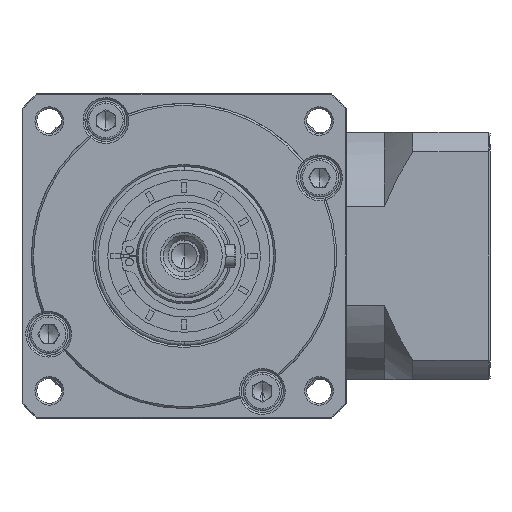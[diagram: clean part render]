
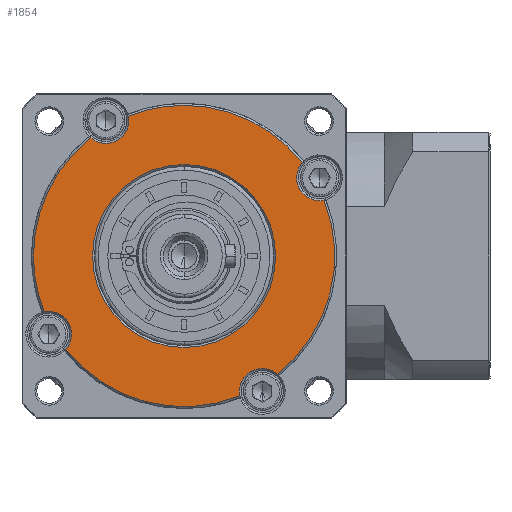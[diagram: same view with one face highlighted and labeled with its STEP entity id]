
A CAD part, left-side view. The second image highlights one B-rep face of the part: STEP entity #1854.
In plain terms, the highlighted planar face has unit normal (-1, 0, 0).
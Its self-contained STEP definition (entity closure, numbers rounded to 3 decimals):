
#27 = CARTESIAN_POINT ( 'NONE',  ( -100.828, -6.446, -125.264 ) ) ;
#1239 = DIRECTION ( 'NONE',  ( 1., 0., 0. ) ) ;
#1410 = EDGE_LOOP ( 'NONE', ( #54417, #53646 ) ) ;
#1830 = CARTESIAN_POINT ( 'NONE',  ( -100.828, 14.054, -89.757 ) ) ;
#1854 = ADVANCED_FACE ( 'NONE', ( #48993, #53265 ), #169832, .T. ) ;
#2634 = EDGE_CURVE ( 'NONE', #25477, #93316, #176120, .T. ) ;
#4752 = DIRECTION ( 'NONE',  ( 0., 0., -1. ) ) ;
#5153 = DIRECTION ( 'NONE',  ( 0., 0., 1. ) ) ;
#7692 = CIRCLE ( 'NONE', #137517, 39.5 ) ;
#10371 = EDGE_LOOP ( 'NONE', ( #87818, #83642, #101927, #33975, #71988, #87057, #58015, #130200, #89342, #99019, #45957, #114866 ) ) ;
#11102 = AXIS2_PLACEMENT_3D ( 'NONE', #82558, #1239, #96177 ) ;
#11341 = CARTESIAN_POINT ( 'NONE',  ( -100.828, -43.141, -110.645 ) ) ;
#13335 = DIRECTION ( 'NONE',  ( 0., 0., -1. ) ) ;
#13628 = DIRECTION ( 'NONE',  ( 0., -1., 0. ) ) ;
#13887 = VERTEX_POINT ( 'NONE', #122277 ) ;
#15423 = DIRECTION ( 'NONE',  ( 0., 0., -1. ) ) ;
#17934 = AXIS2_PLACEMENT_3D ( 'NONE', #175943, #94714, #13335 ) ;
#18430 = CARTESIAN_POINT ( 'NONE',  ( -100.828, 18.024, -94.256 ) ) ;
#22256 = AXIS2_PLACEMENT_3D ( 'NONE', #61906, #156864, #75555 ) ;
#25327 = CARTESIAN_POINT ( 'NONE',  ( -100.828, -41.953, -110.764 ) ) ;
#25477 = VERTEX_POINT ( 'NONE', #25327 ) ;
#27035 = CARTESIAN_POINT ( 'NONE',  ( -100.828, -26.946, -160.771 ) ) ;
#29432 = DIRECTION ( 'NONE',  ( 1., 0., 0. ) ) ;
#30093 = CARTESIAN_POINT ( 'NONE',  ( -100.828, 14.054, -95.757 ) ) ;
#30162 = EDGE_CURVE ( 'NONE', #128869, #41465, #127472, .T. ) ;
#30511 = EDGE_CURVE ( 'NONE', #93685, #25477, #78363, .T. ) ;
#31683 = EDGE_CURVE ( 'NONE', #93685, #89970, #7692, .T. ) ;
#32582 = VERTEX_POINT ( 'NONE', #43719 ) ;
#33975 = ORIENTED_EDGE ( 'NONE', *, *, #30162, .F. ) ;
#34473 = CARTESIAN_POINT ( 'NONE',  ( -100.828, -21.065, -161.96 ) ) ;
#35426 = EDGE_CURVE ( 'NONE', #166042, #13887, #158759, .T. ) ;
#35773 = DIRECTION ( 'NONE',  ( 1., 0., 0. ) ) ;
#40768 = DIRECTION ( 'NONE',  ( 0., 0., -1. ) ) ;
#41465 = VERTEX_POINT ( 'NONE', #18430 ) ;
#42227 = EDGE_CURVE ( 'NONE', #86652, #128504, #60302, .T. ) ;
#43719 = CARTESIAN_POINT ( 'NONE',  ( -100.828, 17.554, -125.264 ) ) ;
#45957 = ORIENTED_EDGE ( 'NONE', *, *, #2634, .T. ) ;
#46766 = DIRECTION ( 'NONE',  ( 1., 0., 0. ) ) ;
#48993 = FACE_OUTER_BOUND ( 'NONE', #10371, .T. ) ;
#50568 = DIRECTION ( 'NONE',  ( 1., 0., 0. ) ) ;
#53265 = FACE_BOUND ( 'NONE', #1410, .T. ) ;
#53646 = ORIENTED_EDGE ( 'NONE', *, *, #136244, .T. ) ;
#54417 = ORIENTED_EDGE ( 'NONE', *, *, #145152, .T. ) ;
#56078 = DIRECTION ( 'NONE',  ( 1., 0., 0. ) ) ;
#56889 = CARTESIAN_POINT ( 'NONE',  ( -100.828, -30.446, -125.264 ) ) ;
#58015 = ORIENTED_EDGE ( 'NONE', *, *, #107213, .F. ) ;
#60302 = CIRCLE ( 'NONE', #113755, 6. ) ;
#61164 = AXIS2_PLACEMENT_3D ( 'NONE', #167364, #86097, #4752 ) ;
#61210 = AXIS2_PLACEMENT_3D ( 'NONE', #161505, #80177, #175044 ) ;
#61906 = CARTESIAN_POINT ( 'NONE',  ( -100.828, -6.446, -125.264 ) ) ;
#68804 = CARTESIAN_POINT ( 'NONE',  ( -100.828, -41.953, -104.764 ) ) ;
#71805 = CIRCLE ( 'NONE', #93619, 39.5 ) ;
#71988 = ORIENTED_EDGE ( 'NONE', *, *, #136278, .F. ) ;
#75555 = DIRECTION ( 'NONE',  ( 0., 0., -1. ) ) ;
#77902 = CIRCLE ( 'NONE', #94671, 6. ) ;
#78363 = CIRCLE ( 'NONE', #61164, 6. ) ;
#80177 = DIRECTION ( 'NONE',  ( 1., 0., 0. ) ) ;
#82392 = DIRECTION ( 'NONE',  ( 0., 0., -1. ) ) ;
#82558 = CARTESIAN_POINT ( 'NONE',  ( -100.828, -6.446, -125.264 ) ) ;
#83642 = ORIENTED_EDGE ( 'NONE', *, *, #42227, .T. ) ;
#85454 = CARTESIAN_POINT ( 'NONE',  ( -100.828, -37.454, -100.795 ) ) ;
#85676 = EDGE_CURVE ( 'NONE', #86652, #156049, #117138, .T. ) ;
#86097 = DIRECTION ( 'NONE',  ( 1., 0., 0. ) ) ;
#86509 = DIRECTION ( 'NONE',  ( 1., 0., 0. ) ) ;
#86652 = VERTEX_POINT ( 'NONE', #117269 ) ;
#87057 = ORIENTED_EDGE ( 'NONE', *, *, #35426, .T. ) ;
#87818 = ORIENTED_EDGE ( 'NONE', *, *, #85676, .F. ) ;
#89342 = ORIENTED_EDGE ( 'NONE', *, *, #31683, .F. ) ;
#89970 = VERTEX_POINT ( 'NONE', #94104 ) ;
#93316 = VERTEX_POINT ( 'NONE', #85454 ) ;
#93619 = AXIS2_PLACEMENT_3D ( 'NONE', #167793, #86509, #5153 ) ;
#93685 = VERTEX_POINT ( 'NONE', #11341 ) ;
#94104 = CARTESIAN_POINT ( 'NONE',  ( -100.828, -30.915, -156.272 ) ) ;
#94671 = AXIS2_PLACEMENT_3D ( 'NONE', #27035, #122134, #40768 ) ;
#94714 = DIRECTION ( 'NONE',  ( 1., 0., 0. ) ) ;
#95020 = DIRECTION ( 'NONE',  ( 1., 0., 0. ) ) ;
#96177 = DIRECTION ( 'NONE',  ( 0., 1., 0. ) ) ;
#96806 = DIRECTION ( 'NONE',  ( 1., 0., 0. ) ) ;
#99019 = ORIENTED_EDGE ( 'NONE', *, *, #30511, .T. ) ;
#99715 = CARTESIAN_POINT ( 'NONE',  ( -100.828, -6.446, -85.764 ) ) ;
#101927 = ORIENTED_EDGE ( 'NONE', *, *, #107617, .T. ) ;
#106579 = CARTESIAN_POINT ( 'NONE',  ( -100.828, 33.054, -125.264 ) ) ;
#107213 = EDGE_CURVE ( 'NONE', #129700, #13887, #114142, .T. ) ;
#107617 = EDGE_CURVE ( 'NONE', #128504, #41465, #164871, .T. ) ;
#109991 = CARTESIAN_POINT ( 'NONE',  ( -100.828, 30.249, -139.883 ) ) ;
#110818 = CARTESIAN_POINT ( 'NONE',  ( -100.828, 14.054, -89.757 ) ) ;
#111754 = AXIS2_PLACEMENT_3D ( 'NONE', #1830, #96806, #15423 ) ;
#113755 = AXIS2_PLACEMENT_3D ( 'NONE', #110818, #29432, #124514 ) ;
#114142 = CIRCLE ( 'NONE', #136690, 39.5 ) ;
#114866 = ORIENTED_EDGE ( 'NONE', *, *, #145126, .F. ) ;
#117115 = CARTESIAN_POINT ( 'NONE',  ( -100.828, -6.446, -125.264 ) ) ;
#117138 = CIRCLE ( 'NONE', #61210, 39.5 ) ;
#117269 = CARTESIAN_POINT ( 'NONE',  ( -100.828, 8.173, -88.569 ) ) ;
#122134 = DIRECTION ( 'NONE',  ( 1., 0., 0. ) ) ;
#122277 = CARTESIAN_POINT ( 'NONE',  ( -100.828, 24.562, -149.734 ) ) ;
#123866 = AXIS2_PLACEMENT_3D ( 'NONE', #27, #95020, #13628 ) ;
#124514 = DIRECTION ( 'NONE',  ( 0., 0., -1. ) ) ;
#127472 = CIRCLE ( 'NONE', #131539, 39.5 ) ;
#128084 = CARTESIAN_POINT ( 'NONE',  ( -100.828, -6.446, -125.264 ) ) ;
#128504 = VERTEX_POINT ( 'NONE', #30093 ) ;
#128869 = VERTEX_POINT ( 'NONE', #106579 ) ;
#129700 = VERTEX_POINT ( 'NONE', #34473 ) ;
#130200 = ORIENTED_EDGE ( 'NONE', *, *, #153337, .T. ) ;
#130513 = AXIS2_PLACEMENT_3D ( 'NONE', #68804, #163676, #82392 ) ;
#130736 = DIRECTION ( 'NONE',  ( 0., 0., 1. ) ) ;
#131539 = AXIS2_PLACEMENT_3D ( 'NONE', #137297, #56078, #150970 ) ;
#131804 = CARTESIAN_POINT ( 'NONE',  ( -100.828, -6.446, -125.264 ) ) ;
#136244 = EDGE_CURVE ( 'NONE', #32582, #169225, #152001, .T. ) ;
#136278 = EDGE_CURVE ( 'NONE', #166042, #128869, #170975, .T. ) ;
#136690 = AXIS2_PLACEMENT_3D ( 'NONE', #117115, #35773, #130736 ) ;
#137297 = CARTESIAN_POINT ( 'NONE',  ( -100.828, -6.446, -125.264 ) ) ;
#137517 = AXIS2_PLACEMENT_3D ( 'NONE', #131804, #50568, #145473 ) ;
#141680 = DIRECTION ( 'NONE',  ( 0., -1., 0. ) ) ;
#145126 = EDGE_CURVE ( 'NONE', #156049, #93316, #71805, .T. ) ;
#145152 = EDGE_CURVE ( 'NONE', #169225, #32582, #158800, .T. ) ;
#145473 = DIRECTION ( 'NONE',  ( 0., 0., 1. ) ) ;
#150970 = DIRECTION ( 'NONE',  ( 0., 1., 0. ) ) ;
#152001 = CIRCLE ( 'NONE', #123866, 24. ) ;
#153337 = EDGE_CURVE ( 'NONE', #129700, #89970, #77902, .T. ) ;
#156049 = VERTEX_POINT ( 'NONE', #99715 ) ;
#156864 = DIRECTION ( 'NONE',  ( -1., 0., 0. ) ) ;
#157356 = AXIS2_PLACEMENT_3D ( 'NONE', #128084, #46766, #141680 ) ;
#158759 = CIRCLE ( 'NONE', #17934, 6. ) ;
#158800 = CIRCLE ( 'NONE', #157356, 24. ) ;
#161505 = CARTESIAN_POINT ( 'NONE',  ( -100.828, -6.446, -125.264 ) ) ;
#163676 = DIRECTION ( 'NONE',  ( 1., 0., 0. ) ) ;
#164871 = CIRCLE ( 'NONE', #111754, 6. ) ;
#166042 = VERTEX_POINT ( 'NONE', #109991 ) ;
#167364 = CARTESIAN_POINT ( 'NONE',  ( -100.828, -41.953, -104.764 ) ) ;
#167793 = CARTESIAN_POINT ( 'NONE',  ( -100.828, -6.446, -125.264 ) ) ;
#169225 = VERTEX_POINT ( 'NONE', #56889 ) ;
#169832 = PLANE ( 'NONE',  #22256 ) ;
#170975 = CIRCLE ( 'NONE', #11102, 39.5 ) ;
#175044 = DIRECTION ( 'NONE',  ( 0., 0., 1. ) ) ;
#175943 = CARTESIAN_POINT ( 'NONE',  ( -100.828, 29.061, -145.764 ) ) ;
#176120 = CIRCLE ( 'NONE', #130513, 6. ) ;
